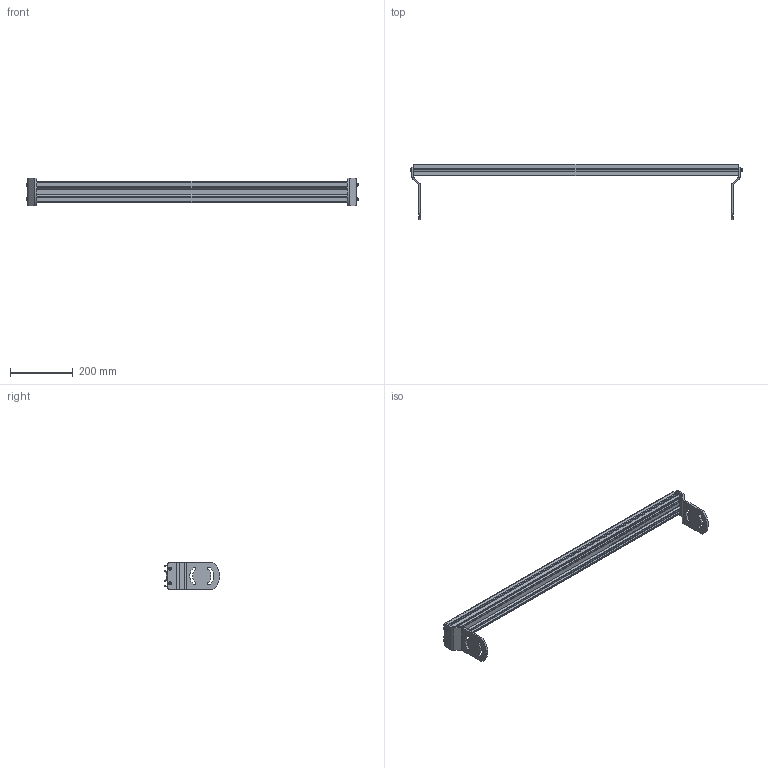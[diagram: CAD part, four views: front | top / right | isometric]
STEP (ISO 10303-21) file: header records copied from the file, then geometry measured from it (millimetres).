
FILE_DESCRIPTION((''),'2;1');
FILE_NAME('39MCM38-2_ASM','2023-03-01T',('jenni.wallner'),(''),'PRO/ENGINEER BY PARAMETRIC TECHNOLOGY CORPORATION, 2012420','PRO/ENGINEER BY PARAMETRIC TECHNOLOGY CORPORATION, 2012420','');
FILE_SCHEMA(('CONFIG_CONTROL_DESIGN'));
Length unit declared in the file: inch
Products named in the file (4): 710210_04079; 300825M; 708180P; 39MCM38-2_ASM
Assembly tree (7 placements, depth 2):
  39MCM38-2_ASM
    710210_04079
    300825M  x2
    708180P  x4
Bounding box: 1060.77 x 176.65 x 88.93 mm (x, y, z)
Volume: 910597.1 mm3; surface area: 679380.6 mm2
Topology: 7 solids, 7 shells, 256 faces, 662 edges, 428 vertices
Faces by surface type: plane 144, cylinder 92, cone 20
Entity records: 4895 total; most frequent: CARTESIAN_POINT 859, DIRECTION 825, ORIENTED_EDGE 816, EDGE_CURVE 408, VECTOR 301, LINE 301, VERTEX_POINT 266, AXIS2_PLACEMENT_3D 262
